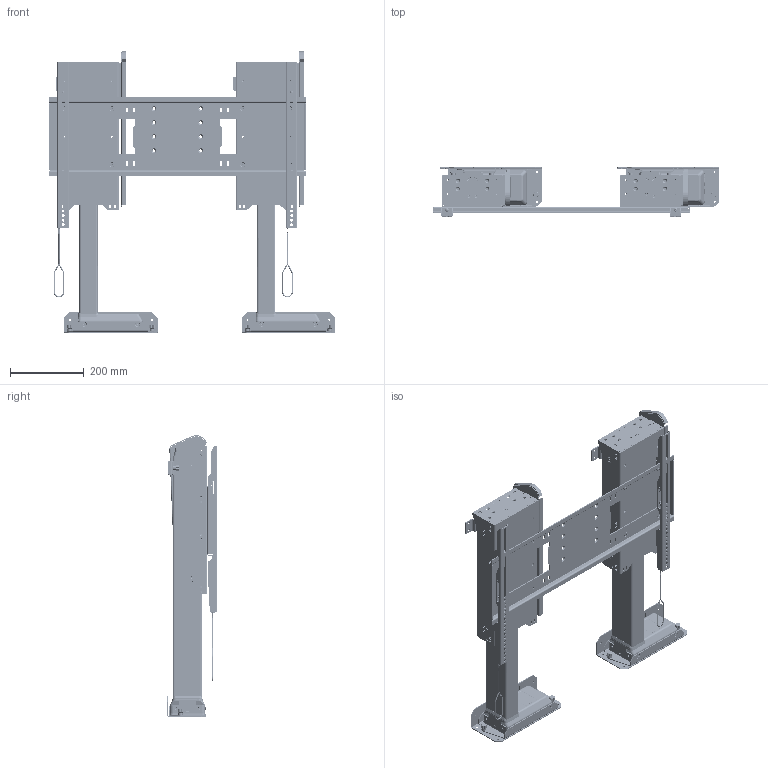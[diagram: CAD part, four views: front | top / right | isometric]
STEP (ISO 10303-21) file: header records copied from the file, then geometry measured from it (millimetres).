
FILE_DESCRIPTION(/* description */ ('STEP AP242','CAx-IF Rec.Pracs.---Representation and Presentation of Product Manufacturing Information (PMI)---4.0---2014-10-13','CAx-IF Rec.Pracs.---3D Tessellated Geometry---0.4---2014-09-14','2;1'),/* implementation_level */ '2;1');
FILE_NAME(/* name */ '63effc6ce841dc2814848117',/* time_stamp */ '2023-02-17T22:15:12+00:00',/* author */ (''),/* organization */ (''),/* preprocessor_version */ 'ST-DEVELOPER v18.102',/* originating_system */ ' ',/* authorisation */ ' ');
FILE_SCHEMA (('AP242_MANAGED_MODEL_BASED_3D_ENGINEERING_MIM_LF { 1 0 10303 442 1 1 4 }'));
Products named in the file (43): ML-65; ULS-NX-037 -- ULS HTG Adapter Plate; Hex socket countersunk head screw M6x1 x 12; OLD_ULS-NX-024 - ULS Hinged Top Guide; Hex socket countersunk head screw M6x1 x 16; WDS8151-215; L-65 Lower Sub Assembly <2>; ULS-NX-002 - ULS QUICK RELEASE LC MOUNT; ULS-NX-004 - ULS COLUMN CLAMP; ULS-NX-022 - ULS REAR SUPPORT <1>; PEM FHS-M6-12  ; ULS-NX-022 - ULS REAR SUPPORT; DL16XL_STANDART_ASM <1>; L45 LC Inner Profile; L45 LC Middle Profile; L45 LC Motor Housing; ULS-NX-001 - ULS QUICK RELEASE BASE MOUNT W/ PEMS <1>; ULS-NX-001 - ULS QUICK RELEASE BASE MOUNT; L-65 Lower Sub Assembly <1>; ULS-NX-108 - ULS SCREEN SUPPORT WELDMENT <2>; PEM CLS-M6-1  ; F-M6-3 M6 PEM NUT; ULS-NX-009 - ULS SCREEN SUPPORT TOP PLATE <1>; ULS-NX-009 - UL SCREEN SUPPORT TOP PLATE; ULS-NX-008 - UL SCREEN SUPPORT SHELL; ULS-NX-108 - ULS SCREEN SUPPORT WELDMENT <1>; SBP & VMB <1>; PZ Pan head screw M5x0.80 x 25; ULS-NX-017 - UL SCREEN BACK PLATE; Lanyard; ULS-NX-118 - UL VMB WELDMENT <2>; Socket button head cap screw #6-32 x 0.188; VMB Washer; ULS-NX-019 - UL LEVEL ADJUSTMENT PLATE; PEM BSO-632-10  ZI; 90107A012; ULS-NX-018 - UL VERICAL MOUNTING BAR; ULS-NX-020 - UL SCREEN LOCK; ULS-NX-118 - UL VMB WELDMENT <1>
Assembly tree (182 placements, depth 4):
  ML-65
    ULS-NX-037 -- ULS HTG Adapter Plate  x2
    Hex socket countersunk head screw M6x1 x 12  x16
    OLD_ULS-NX-024 - ULS Hinged Top Guide  x2
    Hex socket countersunk head screw M6x1 x 16  x8
    WDS8151-215  x8
    L-65 Lower Sub Assembly <2>
      ULS-NX-002 - ULS QUICK RELEASE LC MOUNT
      ULS-NX-004 - ULS COLUMN CLAMP
      ULS-NX-022 - ULS REAR SUPPORT <1>
        PEM FHS-M6-12    x2
        ULS-NX-022 - ULS REAR SUPPORT
      DL16XL_STANDART_ASM <1>
        L45 LC Inner Profile
        L45 LC Middle Profile
        L45 LC Motor Housing
      ULS-NX-001 - ULS QUICK RELEASE BASE MOUNT W/ PEMS <1>
        PEM FHS-M6-12    x2
        ULS-NX-001 - ULS QUICK RELEASE BASE MOUNT
    L-65 Lower Sub Assembly <1>
      DL16XL_STANDART_ASM <1>
        L45 LC Inner Profile
        L45 LC Middle Profile
        L45 LC Motor Housing
      ULS-NX-002 - ULS QUICK RELEASE LC MOUNT
      ULS-NX-004 - ULS COLUMN CLAMP
      ULS-NX-022 - ULS REAR SUPPORT <1>
        PEM FHS-M6-12    x2
        ULS-NX-022 - ULS REAR SUPPORT
      ULS-NX-001 - ULS QUICK RELEASE BASE MOUNT W/ PEMS <1>
        PEM FHS-M6-12    x2
        ULS-NX-001 - ULS QUICK RELEASE BASE MOUNT
    ULS-NX-108 - ULS SCREEN SUPPORT WELDMENT <2>
      PEM CLS-M6-1    x32
      F-M6-3 M6 PEM NUT
      ULS-NX-009 - ULS SCREEN SUPPORT TOP PLATE <1>
        PEM CLS-M6-1    x4
        ULS-NX-009 - UL SCREEN SUPPORT TOP PLATE
      ULS-NX-008 - UL SCREEN SUPPORT SHELL
    ULS-NX-108 - ULS SCREEN SUPPORT WELDMENT <1>
      PEM CLS-M6-1    x32
      F-M6-3 M6 PEM NUT
      ULS-NX-008 - UL SCREEN SUPPORT SHELL
      ULS-NX-009 - ULS SCREEN SUPPORT TOP PLATE <1>
        PEM CLS-M6-1    x4
        ULS-NX-009 - UL SCREEN SUPPORT TOP PLATE
    SBP & VMB <1>
      PZ Pan head screw M5x0.80 x 25  x2
      ULS-NX-017 - UL SCREEN BACK PLATE
      Lanyard  x2
      ULS-NX-118 - UL VMB WELDMENT <2>
        Socket button head cap screw #6-32 x 0.188  x2
        VMB Washer  x4
        ULS-NX-019 - UL LEVEL ADJUSTMENT PLATE
        PEM BSO-632-10  ZI  x2
        90107A012  x2
        ULS-NX-018 - UL VERICAL MOUNTING BAR
        ULS-NX-020 - UL SCREEN LOCK
      ULS-NX-118 - UL VMB WELDMENT <1>
        VMB Washer  x4
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Bounding box: 778.16 x 135.05 x 764.98 mm (x, y, z)
Volume: 16198195.1 mm3; surface area: 2623805.2 mm2
Topology: 167 solids, 167 shells, 15642 faces, 42088 edges, 27276 vertices
Faces by surface type: plane 10850, cylinder 2790, cone 960, bspline 716, torus 296, sphere 30
Full cylindrical faces by diameter (mm): 2.032 x14, 2.642 x4, 3.175 x10, 3.505 x4, 4.6 x4, 4.917 x74, 5 x32, 5.026 x4, 5.08 x4, 5.277 x8, 5.3 x12, 5.385 x12, 5.41 x8, 5.6 x8, 5.613 x12, 5.944 x4, 5.994 x4, 6 x60, 6.35 x24, 6.528 x8, 6.6 x8, 6.604 x8, 6.655 x4, 6.976 x2, 7.112 x2, 7.62 x4, 8.128 x34, 8.72 x2, 8.73 x72, 8.75 x72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
Entity records: 85674 total; most frequent: CARTESIAN_POINT 16850, DIRECTION 13455, ORIENTED_EDGE 13058, EDGE_CURVE 6529, AXIS2_PLACEMENT_3D 4613, VERTEX_POINT 4313, LINE 4229, VECTOR 4229
